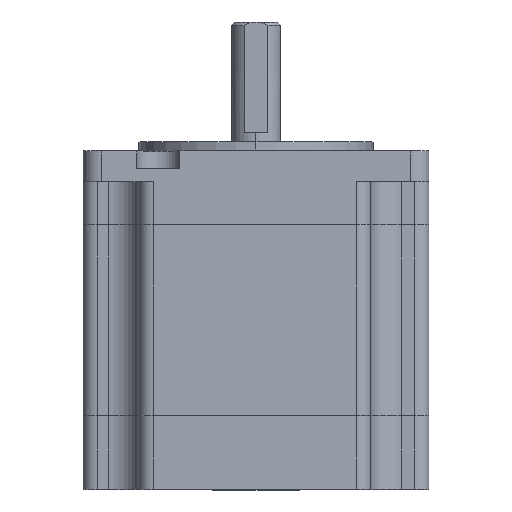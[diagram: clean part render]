
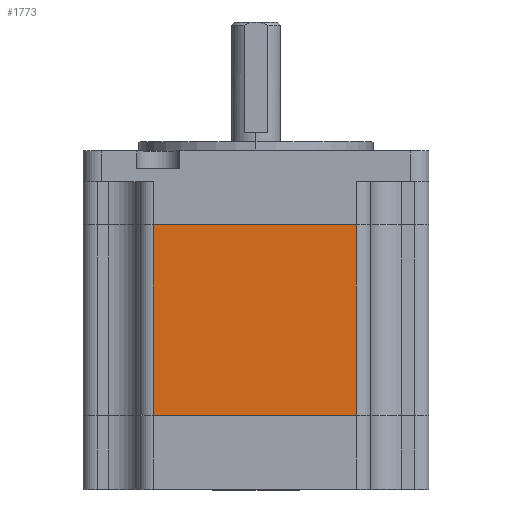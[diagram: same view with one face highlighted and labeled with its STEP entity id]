
A CAD part, top view. The second image highlights one B-rep face of the part: STEP entity #1773.
In plain terms, the highlighted planar face has unit normal (0, 0, 1).
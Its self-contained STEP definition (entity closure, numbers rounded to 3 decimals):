
#150 = VECTOR ( 'NONE', #3798, 1000. ) ;
#403 = CARTESIAN_POINT ( 'NONE',  ( -16.7, -50., 28.1 ) ) ;
#580 = EDGE_CURVE ( 'NONE', #4028, #971, #611, .T. ) ;
#611 = LINE ( 'NONE', #5321, #3021 ) ;
#874 = EDGE_CURVE ( 'NONE', #3425, #4843, #2413, .T. ) ;
#971 = VERTEX_POINT ( 'NONE', #4758 ) ;
#1047 = FACE_OUTER_BOUND ( 'NONE', #3393, .T. ) ;
#1318 = CARTESIAN_POINT ( 'NONE',  ( 25.1, 5., 28.1 ) ) ;
#1674 = CARTESIAN_POINT ( 'NONE',  ( -16.7, -7.001, 28.1 ) ) ;
#1773 = ADVANCED_FACE ( 'NONE', ( #1047 ), #1817, .F. ) ;
#1799 = ORIENTED_EDGE ( 'NONE', *, *, #580, .F. ) ;
#1817 = PLANE ( 'NONE',  #2220 ) ;
#1832 = ORIENTED_EDGE ( 'NONE', *, *, #3360, .F. ) ;
#1991 = LINE ( 'NONE', #403, #5158 ) ;
#2220 = AXIS2_PLACEMENT_3D ( 'NONE', #1318, #6245, #4331 ) ;
#2413 = LINE ( 'NONE', #5589, #150 ) ;
#2521 = LINE ( 'NONE', #4752, #6381 ) ;
#3021 = VECTOR ( 'NONE', #3350, 1000. ) ;
#3350 = DIRECTION ( 'NONE',  ( 1., 0., 0. ) ) ;
#3360 = EDGE_CURVE ( 'NONE', #4843, #4028, #1991, .T. ) ;
#3393 = EDGE_LOOP ( 'NONE', ( #5740, #5962, #1799, #1832 ) ) ;
#3425 = VERTEX_POINT ( 'NONE', #4941 ) ;
#3795 = EDGE_CURVE ( 'NONE', #3425, #971, #2521, .T. ) ;
#3798 = DIRECTION ( 'NONE',  ( -1., 0., 0. ) ) ;
#3859 = DIRECTION ( 'NONE',  ( 0., 1., 0. ) ) ;
#4028 = VERTEX_POINT ( 'NONE', #1674 ) ;
#4276 = DIRECTION ( 'NONE',  ( 0., 1., 0. ) ) ;
#4331 = DIRECTION ( 'NONE',  ( -1., 0., 0. ) ) ;
#4487 = CARTESIAN_POINT ( 'NONE',  ( -16.7, -37.99, 28.1 ) ) ;
#4752 = CARTESIAN_POINT ( 'NONE',  ( 16.3, -50., 28.1 ) ) ;
#4758 = CARTESIAN_POINT ( 'NONE',  ( 16.3, -7.001, 28.1 ) ) ;
#4843 = VERTEX_POINT ( 'NONE', #4487 ) ;
#4941 = CARTESIAN_POINT ( 'NONE',  ( 16.3, -37.99, 28.1 ) ) ;
#5158 = VECTOR ( 'NONE', #3859, 1000. ) ;
#5321 = CARTESIAN_POINT ( 'NONE',  ( 25.1, -7.001, 28.1 ) ) ;
#5589 = CARTESIAN_POINT ( 'NONE',  ( 25.1, -37.99, 28.1 ) ) ;
#5740 = ORIENTED_EDGE ( 'NONE', *, *, #874, .F. ) ;
#5962 = ORIENTED_EDGE ( 'NONE', *, *, #3795, .T. ) ;
#6245 = DIRECTION ( 'NONE',  ( 0., 0., -1. ) ) ;
#6381 = VECTOR ( 'NONE', #4276, 1000. ) ;
